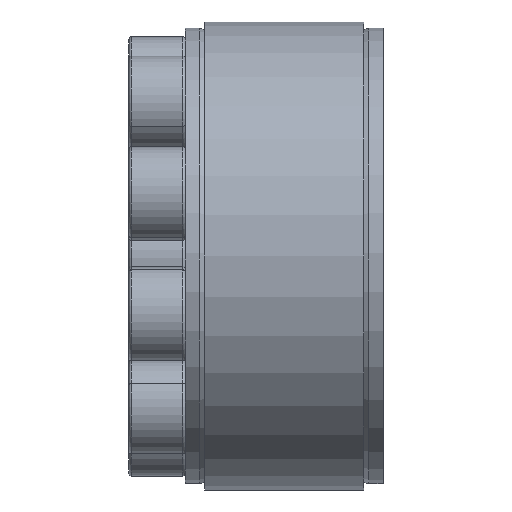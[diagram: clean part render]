
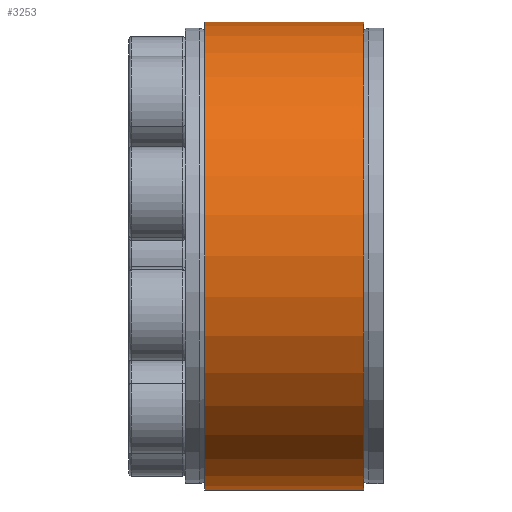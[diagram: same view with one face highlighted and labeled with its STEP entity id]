
A CAD part, front view. The second image highlights one B-rep face of the part: STEP entity #3253.
In plain terms, the highlighted cylindrical face has radius 25 mm (diameter 50 mm), a partial arc.
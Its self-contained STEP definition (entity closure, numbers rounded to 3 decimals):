
#102 = VERTEX_POINT ( 'NONE', #3625 ) ;
#182 = VERTEX_POINT ( 'NONE', #3669 ) ;
#417 = VECTOR ( 'NONE', #5686, 1000. ) ;
#452 = DIRECTION ( 'NONE',  ( 0., 0., 1. ) ) ;
#454 = DIRECTION ( 'NONE',  ( -1., 0., 0. ) ) ;
#465 = CARTESIAN_POINT ( 'NONE',  ( 8.5, 0., 0. ) ) ;
#1026 = VERTEX_POINT ( 'NONE', #4929 ) ;
#2020 = DIRECTION ( 'NONE',  ( 0., 0., 1. ) ) ;
#2025 = DIRECTION ( 'NONE',  ( -1., 0., 0. ) ) ;
#2044 = CARTESIAN_POINT ( 'NONE',  ( -8.5, 0., 0. ) ) ;
#2175 = AXIS2_PLACEMENT_3D ( 'NONE', #465, #454, #452 ) ;
#2263 = LINE ( 'NONE', #5923, #417 ) ;
#2395 = EDGE_CURVE ( 'NONE', #1026, #182, #4975, .T. ) ;
#2514 = EDGE_CURVE ( 'NONE', #6918, #182, #4765, .T. ) ;
#2698 = CARTESIAN_POINT ( 'NONE',  ( -10.57, 0., 25. ) ) ;
#2751 = DIRECTION ( 'NONE',  ( -1., 0., 0. ) ) ;
#2859 = EDGE_CURVE ( 'NONE', #102, #1026, #4251, .T. ) ;
#3253 = ADVANCED_FACE ( 'NONE', ( #3660 ), #3591, .T. ) ;
#3489 = EDGE_LOOP ( 'NONE', ( #6342, #5122, #5522, #4788 ) ) ;
#3591 = CYLINDRICAL_SURFACE ( 'NONE', #3898, 25. ) ;
#3625 = CARTESIAN_POINT ( 'NONE',  ( 8.5, 0., -25. ) ) ;
#3660 = FACE_OUTER_BOUND ( 'NONE', #3489, .T. ) ;
#3669 = CARTESIAN_POINT ( 'NONE',  ( -8.5, 0., 25. ) ) ;
#3898 = AXIS2_PLACEMENT_3D ( 'NONE', #4320, #4287, #4412 ) ;
#4251 = CIRCLE ( 'NONE', #2175, 25. ) ;
#4287 = DIRECTION ( 'NONE',  ( -1., 0., 0. ) ) ;
#4320 = CARTESIAN_POINT ( 'NONE',  ( -10.57, 0., 0. ) ) ;
#4412 = DIRECTION ( 'NONE',  ( 0., 0., 1. ) ) ;
#4765 = CIRCLE ( 'NONE', #7616, 25. ) ;
#4788 = ORIENTED_EDGE ( 'NONE', *, *, #2514, .F. ) ;
#4929 = CARTESIAN_POINT ( 'NONE',  ( 8.5, 0., 25. ) ) ;
#4956 = VECTOR ( 'NONE', #2751, 1000. ) ;
#4975 = LINE ( 'NONE', #2698, #4956 ) ;
#5122 = ORIENTED_EDGE ( 'NONE', *, *, #2859, .T. ) ;
#5522 = ORIENTED_EDGE ( 'NONE', *, *, #2395, .T. ) ;
#5686 = DIRECTION ( 'NONE',  ( -1., 0., 0. ) ) ;
#5923 = CARTESIAN_POINT ( 'NONE',  ( -10.57, 0., -25. ) ) ;
#5957 = CARTESIAN_POINT ( 'NONE',  ( -8.5, 0., -25. ) ) ;
#6342 = ORIENTED_EDGE ( 'NONE', *, *, #6649, .F. ) ;
#6649 = EDGE_CURVE ( 'NONE', #102, #6918, #2263, .T. ) ;
#6918 = VERTEX_POINT ( 'NONE', #5957 ) ;
#7616 = AXIS2_PLACEMENT_3D ( 'NONE', #2044, #2025, #2020 ) ;
